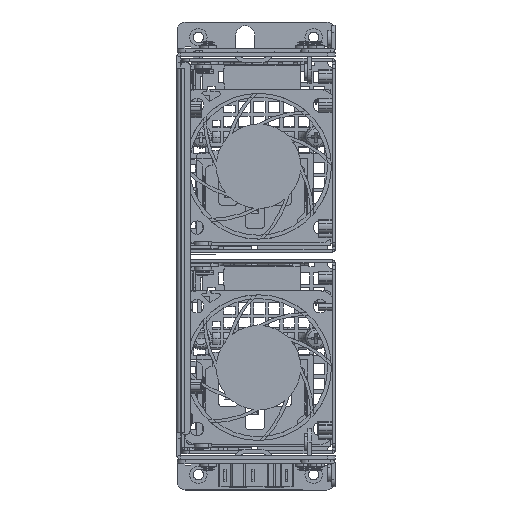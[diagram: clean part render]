
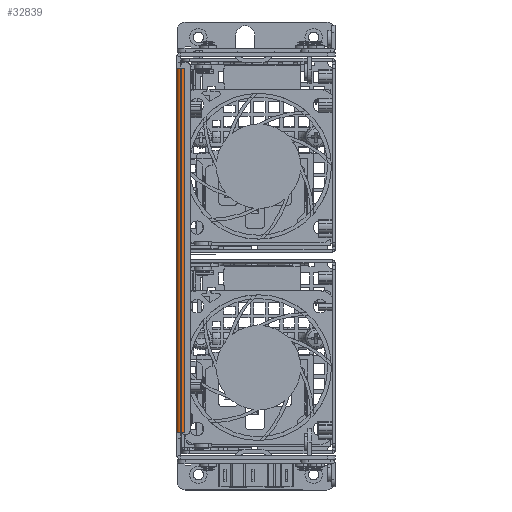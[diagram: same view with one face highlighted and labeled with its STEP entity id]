
A CAD part, left-side view. The second image highlights one B-rep face of the part: STEP entity #32839.
In plain terms, the highlighted cylindrical face has radius 1.05 mm (diameter 2.1 mm), a partial arc.
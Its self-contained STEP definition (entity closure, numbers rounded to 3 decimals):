
#6776 = CARTESIAN_POINT ( 'NONE',  ( -300.228, 13.976, 49. ) ) ;
#6782 = CARTESIAN_POINT ( 'NONE',  ( -300.228, 13.976, -46. ) ) ;
#6792 = CARTESIAN_POINT ( 'NONE',  ( -300.228, 16.076, -46. ) ) ;
#6850 = CARTESIAN_POINT ( 'NONE',  ( -300.228, 16.076, 49. ) ) ;
#11038 = CIRCLE ( 'NONE', #11042, 1.05 ) ;
#11042 = AXIS2_PLACEMENT_3D ( 'NONE', #40257, #40258, #40259 ) ;
#32839 = ADVANCED_FACE ( 'NONE', ( #105375 ), #105377, .T. ) ;
#40257 = CARTESIAN_POINT ( 'NONE',  ( -300.228, 15.026, 49. ) ) ;
#40258 = DIRECTION ( 'NONE',  ( 0., 0., 1. ) ) ;
#40259 = DIRECTION ( 'NONE',  ( -1., 0., 0. ) ) ;
#48839 = VERTEX_POINT ( 'NONE', #6776 ) ;
#48845 = VERTEX_POINT ( 'NONE', #6782 ) ;
#48855 = VERTEX_POINT ( 'NONE', #6792 ) ;
#48913 = VERTEX_POINT ( 'NONE', #6850 ) ;
#59095 = AXIS2_PLACEMENT_3D ( 'NONE', #105376, #105367, #105378 ) ;
#59408 = CARTESIAN_POINT ( 'NONE',  ( -300.228, 16.076, -46. ) ) ;
#59409 = DIRECTION ( 'NONE',  ( 0., 0., 1. ) ) ;
#59737 = CARTESIAN_POINT ( 'NONE',  ( -300.228, 13.976, 1.5 ) ) ;
#59741 = LINE ( 'NONE', #59737, #93020 ) ;
#59746 = DIRECTION ( 'NONE',  ( 0., 0., 1. ) ) ;
#59758 = CARTESIAN_POINT ( 'NONE',  ( -300.228, 15.026, -46. ) ) ;
#59759 = DIRECTION ( 'NONE',  ( 0., 0., -1. ) ) ;
#59760 = DIRECTION ( 'NONE',  ( -1., 0., 0. ) ) ;
#80912 = EDGE_CURVE ( 'NONE', #48913, #48839, #11038, .T. ) ;
#81187 = EDGE_CURVE ( 'NONE', #48855, #48913, #106490, .T. ) ;
#81318 = EDGE_CURVE ( 'NONE', #48845, #48839, #59741, .T. ) ;
#81322 = EDGE_CURVE ( 'NONE', #48845, #48855, #93036, .T. ) ;
#92642 = VECTOR ( 'NONE', #59409, 1000. ) ;
#93020 = VECTOR ( 'NONE', #59746, 1000. ) ;
#93036 = CIRCLE ( 'NONE', #93042, 1.05 ) ;
#93042 = AXIS2_PLACEMENT_3D ( 'NONE', #59758, #59759, #59760 ) ;
#105367 = DIRECTION ( 'NONE',  ( 0., 0., -1. ) ) ;
#105375 = FACE_OUTER_BOUND ( 'NONE', #117488, .T. ) ;
#105376 = CARTESIAN_POINT ( 'NONE',  ( -300.228, 15.026, -46. ) ) ;
#105377 = CYLINDRICAL_SURFACE ( 'NONE', #59095, 1.05 ) ;
#105378 = DIRECTION ( 'NONE',  ( 0., -1., 0. ) ) ;
#106490 = LINE ( 'NONE', #59408, #92642 ) ;
#115664 = ORIENTED_EDGE ( 'NONE', *, *, #81187, .F. ) ;
#115666 = ORIENTED_EDGE ( 'NONE', *, *, #81322, .F. ) ;
#115668 = ORIENTED_EDGE ( 'NONE', *, *, #81318, .T. ) ;
#115670 = ORIENTED_EDGE ( 'NONE', *, *, #80912, .F. ) ;
#117488 = EDGE_LOOP ( 'NONE', ( #115664, #115666, #115668, #115670 ) ) ;
